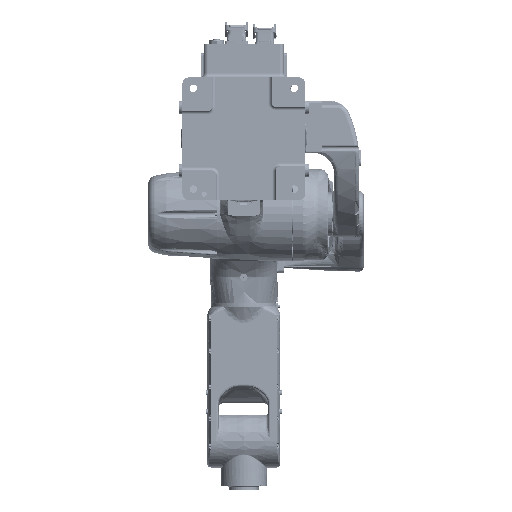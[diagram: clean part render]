
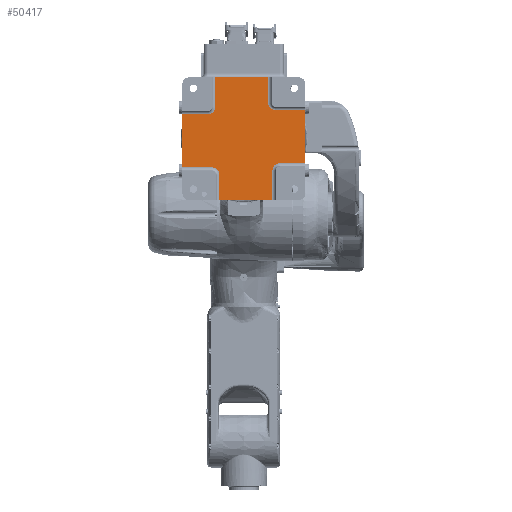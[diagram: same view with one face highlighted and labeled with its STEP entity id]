
A CAD part, front view. The second image highlights one B-rep face of the part: STEP entity #50417.
In plain terms, the highlighted planar face has unit normal (0, -1, 0).
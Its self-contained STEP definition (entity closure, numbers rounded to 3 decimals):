
#7183 = DIRECTION ( 'NONE',  ( 0., 0., -1. ) ) ;
#10011 = CARTESIAN_POINT ( 'NONE',  ( -397.185, -162.771, 279.255 ) ) ;
#13110 = LINE ( 'NONE', #128678, #159589 ) ;
#19272 = CARTESIAN_POINT ( 'NONE',  ( -397.185, -162.771, 221.192 ) ) ;
#21151 = CARTESIAN_POINT ( 'NONE',  ( -465.248, -162.771, 221.192 ) ) ;
#23391 = LINE ( 'NONE', #120874, #169776 ) ;
#24657 = VERTEX_POINT ( 'NONE', #223628 ) ;
#29537 = CARTESIAN_POINT ( 'NONE',  ( -251.185, -162.771, 367.192 ) ) ;
#29790 = EDGE_CURVE ( 'NONE', #24657, #237916, #13110, .T. ) ;
#32741 = EDGE_CURVE ( 'NONE', #123249, #39507, #146863, .T. ) ;
#33877 = CARTESIAN_POINT ( 'NONE',  ( -321.185, -162.771, 289.255 ) ) ;
#37301 = ORIENTED_EDGE ( 'NONE', *, *, #54297, .T. ) ;
#37524 = CARTESIAN_POINT ( 'NONE',  ( -251.185, -162.771, 163.129 ) ) ;
#39356 = VECTOR ( 'NONE', #143927, 1000. ) ;
#39507 = VERTEX_POINT ( 'NONE', #67117 ) ;
#39874 = EDGE_CURVE ( 'NONE', #210628, #58065, #78231, .T. ) ;
#40423 = ORIENTED_EDGE ( 'NONE', *, *, #39874, .T. ) ;
#42885 = EDGE_LOOP ( 'NONE', ( #180804, #40423, #131305, #137412, #156480, #37301, #161267, #190446, #215675, #137466, #77068, #116130, #152367, #216402, #120940, #56081 ) ) ;
#48046 = CARTESIAN_POINT ( 'NONE',  ( -251.185, -162.771, 75.192 ) ) ;
#50417 = ADVANCED_FACE ( 'NONE', ( #150682 ), #152831, .F. ) ;
#53380 = EDGE_CURVE ( 'NONE', #77076, #128845, #205886, .T. ) ;
#54297 = EDGE_CURVE ( 'NONE', #128845, #164233, #149002, .T. ) ;
#56081 = ORIENTED_EDGE ( 'NONE', *, *, #153538, .T. ) ;
#56111 = LINE ( 'NONE', #70684, #208363 ) ;
#57637 = DIRECTION ( 'NONE',  ( -1., 0., 0. ) ) ;
#58065 = VERTEX_POINT ( 'NONE', #161136 ) ;
#61369 = EDGE_CURVE ( 'NONE', #58065, #75640, #159621, .T. ) ;
#62508 = EDGE_CURVE ( 'NONE', #200457, #176937, #180209, .T. ) ;
#67117 = CARTESIAN_POINT ( 'NONE',  ( -339.123, -162.771, 367.192 ) ) ;
#67236 = DIRECTION ( 'NONE',  ( -1., 0., 0. ) ) ;
#67310 = EDGE_CURVE ( 'NONE', #176937, #166838, #178174, .T. ) ;
#70684 = CARTESIAN_POINT ( 'NONE',  ( -397.185, -162.771, 153.129 ) ) ;
#72212 = CARTESIAN_POINT ( 'NONE',  ( -483.185, -162.771, 297.192 ) ) ;
#73245 = CARTESIAN_POINT ( 'NONE',  ( -455.248, -162.771, 75.192 ) ) ;
#75060 = CARTESIAN_POINT ( 'NONE',  ( -473.185, -162.771, 135.192 ) ) ;
#75640 = VERTEX_POINT ( 'NONE', #121119 ) ;
#77068 = ORIENTED_EDGE ( 'NONE', *, *, #110448, .F. ) ;
#77076 = VERTEX_POINT ( 'NONE', #226357 ) ;
#78231 = LINE ( 'NONE', #10011, #161860 ) ;
#80527 = LINE ( 'NONE', #21151, #226845 ) ;
#82579 = DIRECTION ( 'NONE',  ( 0., 1., 0. ) ) ;
#86219 = CARTESIAN_POINT ( 'NONE',  ( -455.248, -162.771, 221.192 ) ) ;
#89308 = CARTESIAN_POINT ( 'NONE',  ( -455.248, -162.771, 135.192 ) ) ;
#89408 = VECTOR ( 'NONE', #245028, 1000. ) ;
#91020 = AXIS2_PLACEMENT_3D ( 'NONE', #19272, #172074, #57637 ) ;
#91437 = DIRECTION ( 'NONE',  ( -1., 0., 0. ) ) ;
#94129 = EDGE_CURVE ( 'NONE', #223314, #164233, #182878, .T. ) ;
#94253 = DIRECTION ( 'NONE',  ( -1., 0., 0. ) ) ;
#94841 = DIRECTION ( 'NONE',  ( 0., 1., 0. ) ) ;
#97093 = DIRECTION ( 'NONE',  ( 0., 0., -1. ) ) ;
#100655 = CARTESIAN_POINT ( 'NONE',  ( -465.248, -162.771, 297.192 ) ) ;
#101795 = CARTESIAN_POINT ( 'NONE',  ( -311.185, -162.771, 163.129 ) ) ;
#104221 = AXIS2_PLACEMENT_3D ( 'NONE', #75060, #208533, #94253 ) ;
#105217 = DIRECTION ( 'NONE',  ( -1., 0., 0. ) ) ;
#108411 = CARTESIAN_POINT ( 'NONE',  ( -339.123, -162.771, 307.192 ) ) ;
#108752 = VECTOR ( 'NONE', #7183, 1000. ) ;
#110448 = EDGE_CURVE ( 'NONE', #24657, #166838, #189649, .T. ) ;
#116130 = ORIENTED_EDGE ( 'NONE', *, *, #29790, .T. ) ;
#117247 = DIRECTION ( 'NONE',  ( 0., 0., -1. ) ) ;
#120874 = CARTESIAN_POINT ( 'NONE',  ( -339.123, -162.771, 221.192 ) ) ;
#120940 = ORIENTED_EDGE ( 'NONE', *, *, #32741, .F. ) ;
#121119 = CARTESIAN_POINT ( 'NONE',  ( -544.525, -162.771, 153.129 ) ) ;
#123249 = VERTEX_POINT ( 'NONE', #135129 ) ;
#127389 = VECTOR ( 'NONE', #155063, 1000. ) ;
#128678 = CARTESIAN_POINT ( 'NONE',  ( -397.185, -162.771, 289.255 ) ) ;
#128845 = VERTEX_POINT ( 'NONE', #89308 ) ;
#131305 = ORIENTED_EDGE ( 'NONE', *, *, #61369, .T. ) ;
#132053 = VECTOR ( 'NONE', #67236, 1000. ) ;
#132542 = CARTESIAN_POINT ( 'NONE',  ( -483.185, -162.771, 279.255 ) ) ;
#135129 = CARTESIAN_POINT ( 'NONE',  ( -465.248, -162.771, 367.192 ) ) ;
#137412 = ORIENTED_EDGE ( 'NONE', *, *, #181350, .T. ) ;
#137466 = ORIENTED_EDGE ( 'NONE', *, *, #67310, .T. ) ;
#140243 = LINE ( 'NONE', #168290, #89408 ) ;
#141345 = CARTESIAN_POINT ( 'NONE',  ( -251.185, -162.771, 367.192 ) ) ;
#143927 = DIRECTION ( 'NONE',  ( 1., 0., 0. ) ) ;
#144860 = VECTOR ( 'NONE', #117247, 1000. ) ;
#146863 = LINE ( 'NONE', #29537, #39356 ) ;
#148416 = AXIS2_PLACEMENT_3D ( 'NONE', #196867, #82579, #216022 ) ;
#149002 = LINE ( 'NONE', #86219, #238537 ) ;
#150682 = FACE_OUTER_BOUND ( 'NONE', #42885, .T. ) ;
#152367 = ORIENTED_EDGE ( 'NONE', *, *, #205643, .T. ) ;
#152831 = PLANE ( 'NONE',  #91020 ) ;
#153538 = EDGE_CURVE ( 'NONE', #123249, #245260, #80527, .T. ) ;
#155063 = DIRECTION ( 'NONE',  ( 1., 0., 0. ) ) ;
#156480 = ORIENTED_EDGE ( 'NONE', *, *, #53380, .T. ) ;
#159279 = DIRECTION ( 'NONE',  ( 0., 0., 1. ) ) ;
#159381 = EDGE_CURVE ( 'NONE', #160580, #39507, #23391, .T. ) ;
#159589 = VECTOR ( 'NONE', #242974, 1000. ) ;
#159621 = LINE ( 'NONE', #197435, #108752 ) ;
#160580 = VERTEX_POINT ( 'NONE', #108411 ) ;
#161136 = CARTESIAN_POINT ( 'NONE',  ( -544.525, -162.771, 279.255 ) ) ;
#161267 = ORIENTED_EDGE ( 'NONE', *, *, #94129, .F. ) ;
#161860 = VECTOR ( 'NONE', #105217, 1000. ) ;
#164233 = VERTEX_POINT ( 'NONE', #73245 ) ;
#165223 = CIRCLE ( 'NONE', #167582, 17.937 ) ;
#166838 = VERTEX_POINT ( 'NONE', #37524 ) ;
#167582 = AXIS2_PLACEMENT_3D ( 'NONE', #209106, #94841, #228321 ) ;
#168290 = CARTESIAN_POINT ( 'NONE',  ( -329.123, -162.771, 221.192 ) ) ;
#169776 = VECTOR ( 'NONE', #159279, 1000. ) ;
#171272 = AXIS2_PLACEMENT_3D ( 'NONE', #72212, #205720, #91437 ) ;
#172074 = DIRECTION ( 'NONE',  ( 0., 1., 0. ) ) ;
#176937 = VERTEX_POINT ( 'NONE', #101795 ) ;
#178174 = LINE ( 'NONE', #210874, #127389 ) ;
#179548 = CARTESIAN_POINT ( 'NONE',  ( -329.123, -162.771, 145.192 ) ) ;
#180209 = CIRCLE ( 'NONE', #148416, 17.937 ) ;
#180804 = ORIENTED_EDGE ( 'NONE', *, *, #231715, .T. ) ;
#181350 = EDGE_CURVE ( 'NONE', #75640, #77076, #56111, .T. ) ;
#182878 = LINE ( 'NONE', #48046, #132053 ) ;
#185086 = DIRECTION ( 'NONE',  ( 1., 0., 0. ) ) ;
#188503 = EDGE_CURVE ( 'NONE', #223314, #200457, #140243, .T. ) ;
#189649 = LINE ( 'NONE', #141345, #144860 ) ;
#190446 = ORIENTED_EDGE ( 'NONE', *, *, #188503, .T. ) ;
#196867 = CARTESIAN_POINT ( 'NONE',  ( -311.185, -162.771, 145.192 ) ) ;
#197435 = CARTESIAN_POINT ( 'NONE',  ( -544.525, -162.771, 287.192 ) ) ;
#198391 = CIRCLE ( 'NONE', #171272, 17.937 ) ;
#200457 = VERTEX_POINT ( 'NONE', #179548 ) ;
#205643 = EDGE_CURVE ( 'NONE', #237916, #160580, #165223, .T. ) ;
#205720 = DIRECTION ( 'NONE',  ( 0., 1., 0. ) ) ;
#205886 = CIRCLE ( 'NONE', #104221, 17.937 ) ;
#208363 = VECTOR ( 'NONE', #185086, 1000. ) ;
#208533 = DIRECTION ( 'NONE',  ( 0., 1., 0. ) ) ;
#209106 = CARTESIAN_POINT ( 'NONE',  ( -321.185, -162.771, 307.192 ) ) ;
#210628 = VERTEX_POINT ( 'NONE', #132542 ) ;
#210874 = CARTESIAN_POINT ( 'NONE',  ( -397.185, -162.771, 163.129 ) ) ;
#215675 = ORIENTED_EDGE ( 'NONE', *, *, #62508, .T. ) ;
#216022 = DIRECTION ( 'NONE',  ( -1., 0., 0. ) ) ;
#216402 = ORIENTED_EDGE ( 'NONE', *, *, #159381, .T. ) ;
#219690 = DIRECTION ( 'NONE',  ( 0., 0., -1. ) ) ;
#223314 = VERTEX_POINT ( 'NONE', #236947 ) ;
#223628 = CARTESIAN_POINT ( 'NONE',  ( -251.185, -162.771, 289.255 ) ) ;
#226357 = CARTESIAN_POINT ( 'NONE',  ( -473.185, -162.771, 153.129 ) ) ;
#226845 = VECTOR ( 'NONE', #97093, 1000. ) ;
#228321 = DIRECTION ( 'NONE',  ( -1., 0., 0. ) ) ;
#231715 = EDGE_CURVE ( 'NONE', #245260, #210628, #198391, .T. ) ;
#236947 = CARTESIAN_POINT ( 'NONE',  ( -329.123, -162.771, 75.192 ) ) ;
#237916 = VERTEX_POINT ( 'NONE', #33877 ) ;
#238537 = VECTOR ( 'NONE', #219690, 1000. ) ;
#242974 = DIRECTION ( 'NONE',  ( -1., 0., 0. ) ) ;
#245028 = DIRECTION ( 'NONE',  ( 0., 0., 1. ) ) ;
#245260 = VERTEX_POINT ( 'NONE', #100655 ) ;
